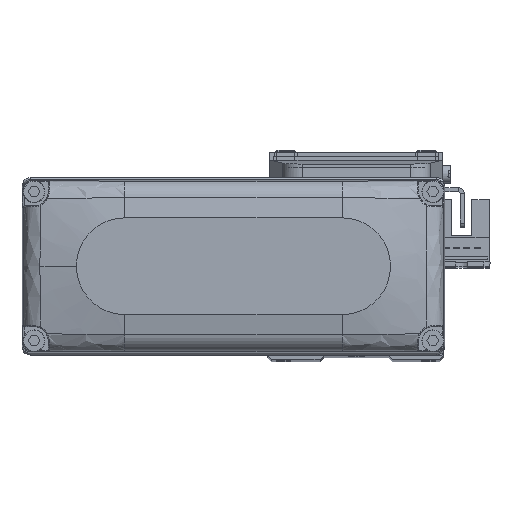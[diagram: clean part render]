
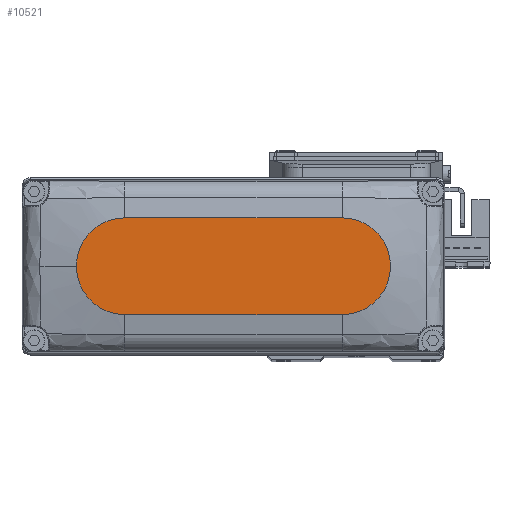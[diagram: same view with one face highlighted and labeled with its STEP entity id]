
A CAD part, top view. The second image highlights one B-rep face of the part: STEP entity #10521.
In plain terms, the highlighted planar face has unit normal (0, 0, 1).
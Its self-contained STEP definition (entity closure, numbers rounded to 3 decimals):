
#288 = CARTESIAN_POINT ( 'NONE',  ( -27., -12., 25. ) ) ;
#2365 = CIRCLE ( 'NONE', #46384, 12. ) ;
#4832 = ORIENTED_EDGE ( 'NONE', *, *, #5506, .T. ) ;
#5506 = EDGE_CURVE ( 'NONE', #54506, #54791, #19246, .T. ) ;
#6297 = CARTESIAN_POINT ( 'NONE',  ( 27., 0., 25. ) ) ;
#6747 = EDGE_CURVE ( 'NONE', #64340, #54506, #66828, .T. ) ;
#6822 = EDGE_LOOP ( 'NONE', ( #62903, #46576, #68574, #64092, #4832 ) ) ;
#10521 = ADVANCED_FACE ( 'NONE', ( #29094 ), #53115, .T. ) ;
#15844 = EDGE_CURVE ( 'NONE', #54791, #22901, #74002, .T. ) ;
#16712 = DIRECTION ( 'NONE',  ( 1., 0., 0. ) ) ;
#19134 = DIRECTION ( 'NONE',  ( 1., 0., 0. ) ) ;
#19246 = CIRCLE ( 'NONE', #33374, 12. ) ;
#20080 = CARTESIAN_POINT ( 'NONE',  ( -27., 12., 25. ) ) ;
#20504 = DIRECTION ( 'NONE',  ( 0., 0., 1. ) ) ;
#22901 = VERTEX_POINT ( 'NONE', #66092 ) ;
#23197 = DIRECTION ( 'NONE',  ( 0., 0., 1. ) ) ;
#24444 = EDGE_CURVE ( 'NONE', #22901, #73515, #2365, .T. ) ;
#27034 = CARTESIAN_POINT ( 'NONE',  ( 27., -12., 25. ) ) ;
#28633 = VECTOR ( 'NONE', #19134, 1000. ) ;
#29094 = FACE_OUTER_BOUND ( 'NONE', #6822, .T. ) ;
#30294 = DIRECTION ( 'NONE',  ( 0., 0., 1. ) ) ;
#30745 = CARTESIAN_POINT ( 'NONE',  ( 39., 0., 25. ) ) ;
#32852 = AXIS2_PLACEMENT_3D ( 'NONE', #46594, #70628, #16712 ) ;
#33374 = AXIS2_PLACEMENT_3D ( 'NONE', #6297, #30294, #54319 ) ;
#40176 = CARTESIAN_POINT ( 'NONE',  ( 27., 12., 25. ) ) ;
#42504 = AXIS2_PLACEMENT_3D ( 'NONE', #77153, #23197, #47197 ) ;
#44063 = DIRECTION ( 'NONE',  ( -1., 0., 0. ) ) ;
#44482 = DIRECTION ( 'NONE',  ( 1., 0., 0. ) ) ;
#46384 = AXIS2_PLACEMENT_3D ( 'NONE', #74436, #20504, #44482 ) ;
#46576 = ORIENTED_EDGE ( 'NONE', *, *, #24444, .T. ) ;
#46594 = CARTESIAN_POINT ( 'NONE',  ( 27., 0., 25. ) ) ;
#47102 = VECTOR ( 'NONE', #44063, 1000. ) ;
#47197 = DIRECTION ( 'NONE',  ( 1., 0., 0. ) ) ;
#49033 = LINE ( 'NONE', #73059, #28633 ) ;
#53115 = PLANE ( 'NONE',  #42504 ) ;
#54319 = DIRECTION ( 'NONE',  ( 1., 0., 0. ) ) ;
#54506 = VERTEX_POINT ( 'NONE', #30745 ) ;
#54791 = VERTEX_POINT ( 'NONE', #40176 ) ;
#62903 = ORIENTED_EDGE ( 'NONE', *, *, #15844, .T. ) ;
#64092 = ORIENTED_EDGE ( 'NONE', *, *, #6747, .T. ) ;
#64340 = VERTEX_POINT ( 'NONE', #27034 ) ;
#66092 = CARTESIAN_POINT ( 'NONE',  ( -27., 12., 25. ) ) ;
#66828 = CIRCLE ( 'NONE', #32852, 12. ) ;
#68574 = ORIENTED_EDGE ( 'NONE', *, *, #69314, .T. ) ;
#69314 = EDGE_CURVE ( 'NONE', #73515, #64340, #49033, .T. ) ;
#70628 = DIRECTION ( 'NONE',  ( 0., 0., 1. ) ) ;
#73059 = CARTESIAN_POINT ( 'NONE',  ( -27., -12., 25. ) ) ;
#73515 = VERTEX_POINT ( 'NONE', #288 ) ;
#74002 = LINE ( 'NONE', #20080, #47102 ) ;
#74436 = CARTESIAN_POINT ( 'NONE',  ( -27., 0., 25. ) ) ;
#77153 = CARTESIAN_POINT ( 'NONE',  ( 0., 0., 25. ) ) ;
